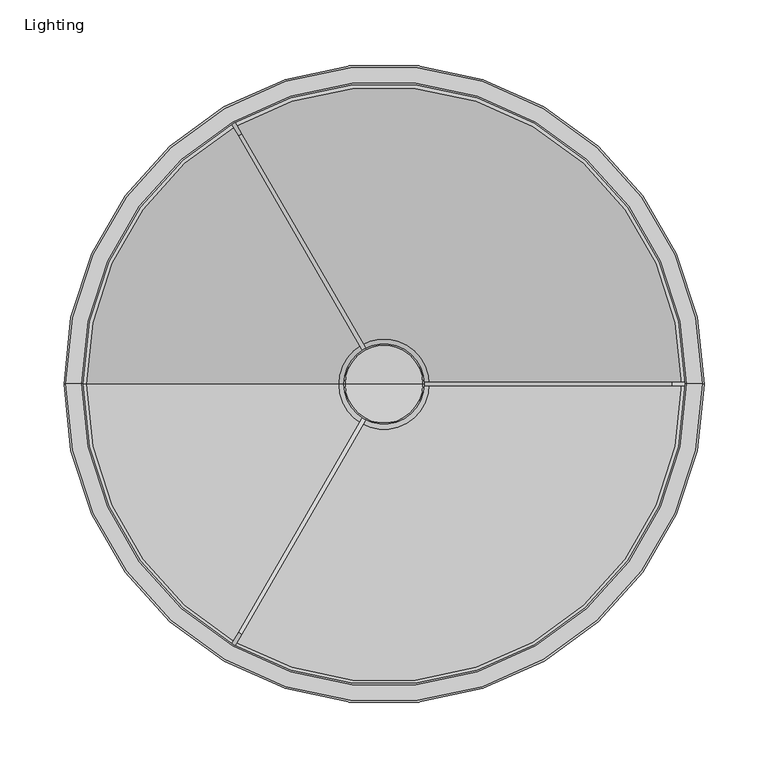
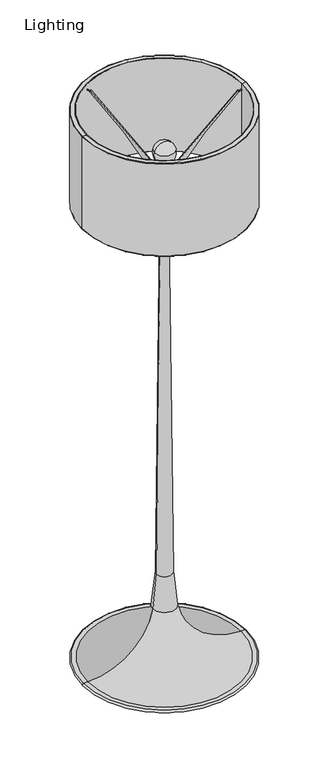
"""IFC4 building model written with IfcOpenShell, lengths in millimetres: furniture geometry, Flos - Spun Light F : Lighting."""

from ifc_helpers import new_model, si_unit, point, frame, frame_2d, origin, place, context, project, spatial, polyline, circle_curve, ellipse_curve, trimmed, segment, composite_curve, outline, extrude, source, transform, mapped, element, save
from ifc_brep_helpers import plane_surface, cylinder_surface, revolved_surface, advanced_brep


def lighting_98346d79(model_context):
    return source(origin(), model_context, "Body", "SolidModel", [
        extrude(outline(composite_curve([segment(trimmed(circle_curve(frame_2d((0.0, -1.5)), 1.5), [point((0.0, -3.0))], [point((0.0, 0.0))], False, "CARTESIAN"), True, "CONTINUOUS"), segment(trimmed(circle_curve(frame_2d((0.0, -1.5)), 1.5), [point((0.0, 0.0))], [point((0.0, -3.0))], False, "CARTESIAN"), True, "CONTINUOUS")], self_intersect=False)), frame((-480.7255228, 141.6531573, 1746.4644735), z_axis=(0.5000000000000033, 0.8660254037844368, 0.0), x_axis=(0.0, 0.0, -1.0)), (0.0, 0.0, 1.0), 11.9225152),
        extrude(outline(composite_curve([segment(polyline([(2125.9417669, -1025.4635576), (2119.9466991, -1025.4635576)]), True, "CONTINUOUS"), segment(trimmed(circle_curve(frame_2d((949.9712899, -1990.7022794)), 1516.7492371), [point((2119.9466991, -1025.4635576))], [point((2028.4604144, -924.2176538))], True, "CARTESIAN"), True, "CONTINUOUS"), segment(trimmed(circle_curve(frame_2d((1620.7177075, -1327.4218385)), 573.4350265), [point((2028.4604144, -924.2176538))], [point((1895.9133242, -824.3362572))], True, "CARTESIAN"), True, "CONTINUOUS"), segment(polyline([(1895.9133242, -824.3362572), (1949.0963027, -824.3362572)]), True, "CONTINUOUS"), segment(trimmed(circle_curve(frame_2d((0.0, -2716.4319311)), 2716.4319311), [point((1949.0963027, -824.3362572))], [point((2125.9417669, -1025.4635576))], False, "CARTESIAN"), True, "CONTINUOUS")], self_intersect=False)), frame((40.5655898, 1038.5558498, -376.4772934), z_axis=(-0.8660254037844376, 0.5000000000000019, 0.0), x_axis=(0.0, 0.0, 1.0)), (0.0, 0.0, 1.0), 3.0),
        extrude(outline(composite_curve([segment(trimmed(circle_curve(frame_2d((0.0, -1.5)), 1.5), [point((0.0, -3.0))], [point((0.0, 0.0))], False, "CARTESIAN"), True, "CONTINUOUS"), segment(trimmed(circle_curve(frame_2d((0.0, -1.5)), 1.5), [point((0.0, 0.0))], [point((0.0, -3.0))], False, "CARTESIAN"), True, "CONTINUOUS")], self_intersect=False)), frame((-474.7642652, 539.6054614, 1746.4644735), z_axis=(-0.49999999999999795, 0.8660254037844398, 0.0), x_axis=(0.0, 0.0, -1.0)), (0.0, 0.0, 1.0), 11.9225152),
        extrude(outline(composite_curve([segment(polyline([(0.0, 0.0), (5.9950678, 0.0)]), True, "CONTINUOUS"), segment(trimmed(circle_curve(frame_2d((1175.970477, 965.2387218)), 1516.7492371), [point((5.9950678, 0.0))], [point((97.4813525, -101.2459038))], True, "CARTESIAN"), True, "CONTINUOUS"), segment(trimmed(circle_curve(frame_2d((505.2240594, 301.9582809)), 573.4350265), [point((97.4813525, -101.2459038))], [point((230.0284427, -201.1273005))], True, "CARTESIAN"), True, "CONTINUOUS"), segment(polyline([(230.0284427, -201.1273005), (176.8454642, -201.1273005)]), True, "CONTINUOUS"), segment(trimmed(circle_curve(frame_2d((2125.9417669, 1690.9683736)), 2716.4319311), [point((176.8454642, -201.1273005))], [point((0.0, 0.0))], False, "CARTESIAN"), True, "CONTINUOUS")], self_intersect=False)), frame((-474.7642652, 539.6054614, 1749.4644735), z_axis=(0.8660254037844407, 0.49999999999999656, 0.0), x_axis=(0.0, 0.0, -1.0)), (0.0, 0.0, 1.0), 3.0),
        extrude(outline(composite_curve([segment(trimmed(circle_curve(frame_2d((345.7919098, 1746.4644735)), 1.5), [point((344.2919098, 1746.4644735))], [point((347.2919098, 1746.4644735))], False, "CARTESIAN"), True, "CONTINUOUS"), segment(trimmed(circle_curve(frame_2d((345.7919098, 1746.4644735)), 1.5), [point((347.2919098, 1746.4644735))], [point((344.2919098, 1746.4644735))], False, "CARTESIAN"), True, "CONTINUOUS")], self_intersect=False)), frame((-136.4712706, 0.0, 0.0), z_axis=(1.0, 0.0, 0.0), x_axis=(0.0, 1.0, 0.0)), (0.0, 0.0, 1.0), 11.9225152),
        extrude(outline(composite_curve([segment(trimmed(circle_curve(frame_2d((-376.4772934, 1554.497103)), 2716.4319311), [point((1749.4644735, -136.4712706))], [point((1572.6190093, -337.598571))], False, "CARTESIAN"), True, "CONTINUOUS"), segment(polyline([(1572.6190093, -337.598571), (1519.4360308, -337.598571)]), True, "CONTINUOUS"), segment(trimmed(circle_curve(frame_2d((1244.2404141, 165.4870104)), 573.4350265), [point((1519.4360308, -337.598571))], [point((1651.983121, -237.7171743))], True, "CARTESIAN"), True, "CONTINUOUS"), segment(trimmed(circle_curve(frame_2d((573.4939965, 828.7674513)), 1516.7492371), [point((1651.983121, -237.7171743))], [point((1743.4694057, -136.4712706))], True, "CARTESIAN"), True, "CONTINUOUS"), segment(polyline([(1743.4694057, -136.4712706), (1749.4644735, -136.4712706)]), True, "CONTINUOUS")], self_intersect=False)), frame((0.0, 344.2919098, 0.0), z_axis=(0.0, 1.0, 0.0), x_axis=(0.0, 0.0, 1.0)), (0.0, 0.0, 1.0), 3.0),
        advanced_brep(
        [(-596.3839083, 345.7919098, 1468.0), (-125.8839083, 345.7919098, 1468.0), (-124.8839083, 345.7919098, 1468.0), (-597.3839083, 345.7919098, 1468.0), (-596.3839083, 345.7919098, 1766.0), (-125.8839083, 345.7919098, 1766.0), (-597.3839083, 345.7919098, 1766.0), (-124.8839083, 345.7919098, 1766.0)],
        [
            (0, 1, circle_curve(frame((-361.1339083, 345.7919098, 1468.0), z_axis=(0.0, 0.0, 1.0), x_axis=(1.0, 0.0, 0.0)), 235.25)),
            (1, 2),
            (2, 3, circle_curve(frame((-361.1339083, 345.7919098, 1468.0), z_axis=(0.0, 0.0, -1.0), x_axis=(1.0, 0.0, 0.0)), 236.25)),
            (3, 0),
            (1, 0, circle_curve(frame((-361.1339083, 345.7919098, 1468.0), z_axis=(0.0, 0.0, 1.0), x_axis=(1.0, 0.0, 0.0)), 235.25)),
            (3, 2, circle_curve(frame((-361.1339083, 345.7919098, 1468.0), z_axis=(0.0, 0.0, -1.0), x_axis=(1.0, 0.0, 0.0)), 236.25)),
            (4, 5, circle_curve(frame((-361.1339083, 345.7919098, 1766.0), z_axis=(0.0, 0.0, 1.0), x_axis=(1.0, 0.0, 0.0)), 235.25)),
            (5, 1),
            (0, 4),
            (5, 4, circle_curve(frame((-361.1339083, 345.7919098, 1766.0), z_axis=(0.0, 0.0, 1.0), x_axis=(1.0, 0.0, 0.0)), 235.25)),
            (6, 7, circle_curve(frame((-361.1339083, 345.7919098, 1766.0), z_axis=(0.0, 0.0, 1.0), x_axis=(1.0, 0.0, 0.0)), 236.25)),
            (7, 5),
            (4, 6),
            (7, 6, circle_curve(frame((-361.1339083, 345.7919098, 1766.0), z_axis=(0.0, 0.0, 1.0), x_axis=(1.0, 0.0, 0.0)), 236.25)),
            (2, 7),
            (6, 3),
        ],
        [
            plane_surface(frame((-361.1339083, 345.7919098, 1468.0), z_axis=(0.0, 0.0, -1.0), x_axis=(1.0, 0.0, 0.0))),
            revolved_surface(polyline([(-125.88390829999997, 345.7919098, 1468.0), (-125.88390829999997, 345.7919098, 1766.0)]), (-361.1339083, 345.7919098, 1906.0), (0.0, 0.0, -1.0)),
            plane_surface(frame((-361.1339083, 345.7919098, 1766.0), z_axis=(0.0, 0.0, 1.0), x_axis=(1.0, 0.0, 0.0))),
            cylinder_surface(frame((-361.1339083, 345.7919098, 1906.0), z_axis=(0.0, 0.0, -1.0), x_axis=(1.0, 0.0, 0.0)), 236.25),
        ],
        [
            (0, [[1, 2, 3, 4]]),
            (0, [[5, -4, 6, -2]]),
            (1, [[7, 8, -1, 9]]),
            (1, [[10, -9, -5, -8]]),
            (2, [[11, 12, -7, 13]]),
            (2, [[14, -13, -10, -12]]),
            (3, [[-3, 15, -11, 16]]),
            (3, [[-6, -16, -14, -15]]),
        ],
    ),
        advanced_brep(
        [(-361.1339083, 345.7919098, 0.0), (-115.5191649, 345.7919098, 0.0), (-606.7486516, 345.7919098, 0.0), (-372.2519888, 345.7919098, 1496.7906991), (-350.0158277, 345.7919098, 1496.7906991), (-361.1339083, 345.7919098, 1496.7906991), (-385.2169931, 345.7919098, 281.3512826), (-337.0508235, 345.7919098, 281.3512826), (-396.4131076, 345.7919098, 173.8393367), (-325.8547089, 345.7919098, 173.8393367), (-593.5282358, 345.7919098, 7.6864375), (-128.7395807, 345.7919098, 7.6864375), (-606.7486516, 345.7919098, 7.6864375), (-115.5191649, 345.7919098, 7.6864375)],
        [
            (0, 1),
            (1, 2, circle_curve(frame((-361.1339083, 345.7919098, 0.0), z_axis=(0.0, 0.0, -1.0), x_axis=(1.0, 0.0, 0.0)), 245.6147434)),
            (2, 0),
            (2, 1, circle_curve(frame((-361.1339083, 345.7919098, 0.0), z_axis=(0.0, 0.0, -1.0), x_axis=(1.0, 0.0, 0.0)), 245.6147434)),
            (3, 4, circle_curve(frame((-361.1339083, 345.7919098, 1496.7906991), z_axis=(0.0, 0.0, 1.0), x_axis=(1.0, 0.0, 0.0)), 11.1180805)),
            (4, 5),
            (5, 3),
            (4, 3, circle_curve(frame((-361.1339083, 345.7919098, 1496.7906991), z_axis=(0.0, 0.0, 1.0), x_axis=(1.0, 0.0, 0.0)), 11.1180805)),
            (6, 7, circle_curve(frame((-361.1339083, 345.7919098, 281.3512826), z_axis=(0.0, 0.0, 1.0), x_axis=(1.0, 0.0, 0.0)), 24.0830848)),
            (7, 4, circle_curve(frame((22320.2412413, 345.7919098, 1130.8238332), z_axis=(0.0, 1.0, 0.0), x_axis=(-1.0, 0.0, 0.0)), 22673.2107855)),
            (3, 6, circle_curve(frame((-23042.5090579, 345.7919098, 1130.8238332), z_axis=(0.0, 1.0, 0.0), x_axis=(1.0, 0.0, 0.0)), 22673.2107855)),
            (7, 6, circle_curve(frame((-361.1339083, 345.7919098, 281.3512826), z_axis=(0.0, 0.0, 1.0), x_axis=(1.0, 0.0, 0.0)), 24.0830848)),
            (8, 9, circle_curve(frame((-361.1339083, 345.7919098, 173.8393367), z_axis=(0.0, 0.0, 1.0), x_axis=(1.0, 0.0, 0.0)), 35.2791993)),
            (9, 7, circle_curve(frame((478.2849605, 345.7919098, 311.9200446), z_axis=(0.0, 1.0, 0.0), x_axis=(-1.0, 0.0, 0.0)), 815.9086284)),
            (6, 8, circle_curve(frame((-1200.552777, 345.7919098, 311.9200446), z_axis=(0.0, 1.0, 0.0), x_axis=(1.0, 0.0, 0.0)), 815.9086284)),
            (9, 8, circle_curve(frame((-361.1339083, 345.7919098, 173.8393367), z_axis=(0.0, 0.0, 1.0), x_axis=(1.0, 0.0, 0.0)), 35.2791993)),
            (10, 11, circle_curve(frame((-361.1339083, 345.7919098, 7.6864375), z_axis=(0.0, 0.0, 1.0), x_axis=(1.0, 0.0, 0.0)), 232.3943275)),
            (11, 9, circle_curve(frame((-128.7395807, 345.7919098, 207.6864375), z_axis=(0.0, 1.0, 0.0), x_axis=(-1.0, 0.0, 0.0)), 200.0)),
            (8, 10, circle_curve(frame((-593.5282358, 345.7919098, 207.6864375), z_axis=(0.0, 1.0, 0.0), x_axis=(1.0, 0.0, 0.0)), 200.0)),
            (11, 10, circle_curve(frame((-361.1339083, 345.7919098, 7.6864375), z_axis=(0.0, 0.0, 1.0), x_axis=(1.0, 0.0, 0.0)), 232.3943275)),
            (12, 13, circle_curve(frame((-361.1339083, 345.7919098, 7.6864375), z_axis=(0.0, 0.0, 1.0), x_axis=(1.0, 0.0, 0.0)), 245.6147434)),
            (13, 11),
            (10, 12),
            (13, 12, circle_curve(frame((-361.1339083, 345.7919098, 7.6864375), z_axis=(0.0, 0.0, 1.0), x_axis=(1.0, 0.0, 0.0)), 245.6147434)),
            (1, 13, circle_curve(frame((-115.5191649, 345.7919098, 3.8432188), z_axis=(0.0, -1.0, 0.0), x_axis=(-1.0, 0.0, 0.0)), 3.8432188)),
            (12, 2, circle_curve(frame((-606.7486516, 345.7919098, 3.8432188), z_axis=(0.0, -1.0, 0.0), x_axis=(1.0, 0.0, 0.0)), 3.8432188)),
        ],
        [
            plane_surface(frame((-361.1339083, 345.7919098, 0.0), z_axis=(0.0, 0.0, -1.0), x_axis=(1.0, 0.0, 0.0))),
            plane_surface(frame((-361.1339083, 345.7919098, 1496.7906991), z_axis=(0.0, 0.0, 1.0), x_axis=(1.0, 0.0, 0.0))),
            revolved_surface(trimmed(ellipse_curve(frame((22320.2412413, 345.7919098, 1130.8238332), z_axis=(0.0, -1.0, 0.0), x_axis=(-1.0, 0.0, 0.0)), 22673.2107855, 22673.2107855), [point((-350.0158277, 345.7919098, 1496.7906991))], [point((-337.0508235, 345.7919098, 281.3512826))], True, "CARTESIAN"), (-361.1339083, 345.7919098, 1408.2368008), (0.0, 0.0, -1.0)),
            revolved_surface(trimmed(ellipse_curve(frame((478.2849605, 345.7919098, 311.9200446), z_axis=(0.0, -1.0, 0.0), x_axis=(-1.0, 0.0, 0.0)), 815.9086284, 815.9086284), [point((-337.0508235, 345.7919098, 281.3512826))], [point((-325.8547089, 345.7919098, 173.8393367))], True, "CARTESIAN"), (-361.1339083, 345.7919098, 1408.2368008), (0.0, 0.0, -1.0)),
            revolved_surface(trimmed(ellipse_curve(frame((-128.7395807, 345.7919098, 207.6864375), z_axis=(0.0, -1.0, 0.0), x_axis=(-1.0, 0.0, 0.0)), 200.0, 200.0), [point((-325.8547089, 345.7919098, 173.8393367))], [point((-128.7395807, 345.7919098, 7.6864375))], True, "CARTESIAN"), (-361.1339083, 345.7919098, 1408.2368008), (0.0, 0.0, -1.0)),
            plane_surface(frame((-361.1339083, 345.7919098, 7.6864375), z_axis=(0.0, 0.0, 1.0), x_axis=(1.0, 0.0, 0.0))),
            revolved_surface(trimmed(ellipse_curve(frame((-115.5191649, 345.7919098, 3.8432188), z_axis=(0.0, 1.0, 0.0), x_axis=(-1.0, 0.0, 0.0)), 3.8432188, 3.8432188), [point((-115.5191649, 345.7919098, 7.6864375))], [point((-115.5191649, 345.7919098, 0.0))], True, "CARTESIAN"), (-361.1339083, 345.7919098, 1408.2368008), (0.0, 0.0, -1.0)),
        ],
        [
            (0, [[1, 2, 3]]),
            (0, [[-3, 4, -1]]),
            (1, [[5, 6, 7]]),
            (1, [[8, -7, -6]]),
            (2, [[9, 10, -5, 11]]),
            (2, [[12, -11, -8, -10]]),
            (3, [[13, 14, -9, 15]]),
            (3, [[16, -15, -12, -14]]),
            (4, [[17, 18, -13, 19]]),
            (4, [[20, -19, -16, -18]]),
            (5, [[21, 22, -17, 23]]),
            (5, [[24, -23, -20, -22]]),
            (6, [[-2, 25, -21, 26]]),
            (6, [[-4, -26, -24, -25]]),
        ],
    ),
        advanced_brep(
        [(-376.8534763, 345.7919098, 1575.3222579), (-345.4143402, 345.7919098, 1575.3222579), (-344.324078, 345.7919098, 1597.7140995), (-377.9437386, 345.7919098, 1597.7140995), (-361.1339083, 345.7919098, 1568.984467), (-361.1339083, 345.7919098, 1597.7140995)],
        [
            (0, 1, circle_curve(frame((-361.1339083, 345.7919098, 1575.3222579), z_axis=(0.0, 0.0, 1.0), x_axis=(1.0, 0.0, 0.0)), 15.719568)),
            (1, 2),
            (2, 3, circle_curve(frame((-361.1339083, 345.7919098, 1597.7140995), z_axis=(0.0, 0.0, -1.0), x_axis=(1.0, 0.0, 0.0)), 16.8098303)),
            (3, 0),
            (1, 0, circle_curve(frame((-361.1339083, 345.7919098, 1575.3222579), z_axis=(0.0, 0.0, 1.0), x_axis=(1.0, 0.0, 0.0)), 15.719568)),
            (3, 2, circle_curve(frame((-361.1339083, 345.7919098, 1597.7140995), z_axis=(0.0, 0.0, -1.0), x_axis=(1.0, 0.0, 0.0)), 16.8098303)),
            (4, 1, circle_curve(frame((-361.1339095, 345.7919098, 1591.6479199), z_axis=(0.0, -1.0, 0.0), x_axis=(-1.0, 0.0, 0.0)), 22.6634529)),
            (0, 4, circle_curve(frame((-361.133907, 345.7919098, 1591.6479199), z_axis=(0.0, -1.0, 0.0), x_axis=(1.0, 0.0, 0.0)), 22.6634529)),
            (2, 5),
            (5, 3),
        ],
        [
            revolved_surface(polyline([(-344.324078, 345.7919098, 1597.7140995), (-345.4143402, 345.7919098, 1575.3222579)]), (-361.1339083, 345.7919098, 1591.5383358), (0.0, 0.0, -1.0)),
            revolved_surface(trimmed(ellipse_curve(frame((-361.1339095, 345.7919098, 1591.6479199), z_axis=(0.0, 1.0, 0.0), x_axis=(-1.0, 0.0, 0.0)), 22.6634529, 22.6634529), [point((-345.4143402, 345.7919098, 1575.3222579))], [point((-361.1339083, 345.7919098, 1568.984467))], True, "CARTESIAN"), (-361.1339083, 345.7919098, 1591.5383358), (0.0, 0.0, -1.0)),
            plane_surface(frame((-361.1339083, 345.7919098, 1597.7140995), z_axis=(0.0, 0.0, 1.0), x_axis=(1.0, 0.0, 0.0))),
        ],
        [
            (0, [[1, 2, 3, 4]]),
            (0, [[5, -4, 6, -2]]),
            (1, [[7, -1, 8]]),
            (1, [[-8, -5, -7]]),
            (2, [[-3, 9, 10]]),
            (2, [[-6, -10, -9]]),
        ],
    ),
        advanced_brep(
        [(-377.9437386, 345.7919098, 1597.7140995), (-344.324078, 345.7919098, 1597.7140995), (-330.7271802, 345.7919098, 1636.8241251), (-391.5406364, 345.7919098, 1636.8241251), (-361.1339083, 345.7919098, 1597.7140995), (-361.1339083, 345.7919098, 1661.3737004)],
        [
            (0, 1, circle_curve(frame((-361.1339083, 345.7919098, 1597.7140995), z_axis=(0.0, 0.0, 1.0), x_axis=(1.0, 0.0, 0.0)), 16.8098303)),
            (1, 2, circle_curve(frame((-369.6406673, 345.7919098, 1628.4341496), z_axis=(0.0, -1.0, 0.0), x_axis=(-1.0, 0.0, 0.0)), 39.8076773)),
            (2, 3, circle_curve(frame((-361.1339083, 345.7919098, 1636.8241251), z_axis=(0.0, 0.0, -1.0), x_axis=(1.0, 0.0, 0.0)), 30.4067281)),
            (3, 0, circle_curve(frame((-352.6271493, 345.7919098, 1628.4341496), z_axis=(0.0, -1.0, 0.0), x_axis=(1.0, 0.0, 0.0)), 39.8076773)),
            (1, 0, circle_curve(frame((-361.1339083, 345.7919098, 1597.7140995), z_axis=(0.0, 0.0, 1.0), x_axis=(1.0, 0.0, 0.0)), 16.8098303)),
            (3, 2, circle_curve(frame((-361.1339083, 345.7919098, 1636.8241251), z_axis=(0.0, 0.0, -1.0), x_axis=(1.0, 0.0, 0.0)), 30.4067281)),
            (4, 1),
            (0, 4),
            (2, 5, circle_curve(frame((-361.1339104, 345.7919098, 1630.2682562), z_axis=(0.0, -1.0, 0.0), x_axis=(-1.0, 0.0, 0.0)), 31.1054442)),
            (5, 3, circle_curve(frame((-361.1339062, 345.7919098, 1630.2682562), z_axis=(0.0, -1.0, 0.0), x_axis=(1.0, 0.0, 0.0)), 31.1054442)),
        ],
        [
            revolved_surface(trimmed(ellipse_curve(frame((-369.6406673, 345.7919098, 1628.4341496), z_axis=(0.0, 1.0, 0.0), x_axis=(-1.0, 0.0, 0.0)), 39.8076773, 39.8076773), [point((-330.7271802, 345.7919098, 1636.8241251))], [point((-344.324078, 345.7919098, 1597.7140995))], True, "CARTESIAN"), (-361.1339083, 345.7919098, 1508.984467), (0.0, 0.0, -1.0)),
            plane_surface(frame((-361.1339083, 345.7919098, 1597.7140995), z_axis=(0.0, 0.0, -1.0), x_axis=(1.0, 0.0, 0.0))),
            revolved_surface(trimmed(ellipse_curve(frame((-361.1339104, 345.7919098, 1630.2682562), z_axis=(0.0, 1.0, 0.0), x_axis=(-1.0, 0.0, 0.0)), 31.1054442, 31.1054442), [point((-361.1339083, 345.7919098, 1661.3737004))], [point((-330.7271802, 345.7919098, 1636.8241251))], True, "CARTESIAN"), (-361.1339083, 345.7919098, 1508.984467), (0.0, 0.0, -1.0)),
        ],
        [
            (0, [[1, 2, 3, 4]]),
            (0, [[5, -4, 6, -2]]),
            (1, [[7, -1, 8]]),
            (1, [[-8, -5, -7]]),
            (2, [[-3, 9, 10]]),
            (2, [[-6, -10, -9]]),
        ],
    ),
        advanced_brep(
        [(-361.1339083, 345.7919098, 1496.7906991), (-352.5421569, 345.7919098, 1496.7906991), (-369.7256597, 345.7919098, 1496.7906991), (-379.0933861, 345.7919098, 1522.5485234), (-343.1744304, 345.7919098, 1522.5485234), (-361.1339083, 345.7919098, 1522.5485234), (-381.1784935, 345.7919098, 1572.6190093), (-341.089323, 345.7919098, 1572.6190093), (-384.6692456, 345.7919098, 1572.6190093), (-337.598571, 345.7919098, 1572.6190093), (-384.6692456, 345.7919098, 1518.426376), (-337.598571, 345.7919098, 1518.426376), (-371.8332554, 345.7919098, 1502.2363771), (-350.4345612, 345.7919098, 1502.2363771)],
        [
            (0, 1),
            (1, 2, circle_curve(frame((-361.1339083, 345.7919098, 1496.7906991), z_axis=(0.0, 0.0, -1.0), x_axis=(1.0, 0.0, 0.0)), 8.5917514)),
            (2, 0),
            (2, 1, circle_curve(frame((-361.1339083, 345.7919098, 1496.7906991), z_axis=(0.0, 0.0, -1.0), x_axis=(1.0, 0.0, 0.0)), 8.5917514)),
            (3, 4, circle_curve(frame((-361.1339083, 345.7919098, 1522.5485234), z_axis=(0.0, 0.0, 1.0), x_axis=(1.0, 0.0, 0.0)), 17.9594778)),
            (4, 5),
            (5, 3),
            (4, 3, circle_curve(frame((-361.1339083, 345.7919098, 1522.5485234), z_axis=(0.0, 0.0, 1.0), x_axis=(1.0, 0.0, 0.0)), 17.9594778)),
            (6, 7, circle_curve(frame((-361.1339083, 345.7919098, 1572.6190093), z_axis=(0.0, 0.0, 1.0), x_axis=(1.0, 0.0, 0.0)), 20.0445852)),
            (7, 4),
            (3, 6),
            (7, 6, circle_curve(frame((-361.1339083, 345.7919098, 1572.6190093), z_axis=(0.0, 0.0, 1.0), x_axis=(1.0, 0.0, 0.0)), 20.0445852)),
            (8, 9, circle_curve(frame((-361.1339083, 345.7919098, 1572.6190093), z_axis=(0.0, 0.0, 1.0), x_axis=(1.0, 0.0, 0.0)), 23.5353373)),
            (9, 7),
            (6, 8),
            (9, 8, circle_curve(frame((-361.1339083, 345.7919098, 1572.6190093), z_axis=(0.0, 0.0, 1.0), x_axis=(1.0, 0.0, 0.0)), 23.5353373)),
            (10, 11, circle_curve(frame((-361.1339083, 345.7919098, 1518.426376), z_axis=(0.0, 0.0, 1.0), x_axis=(1.0, 0.0, 0.0)), 23.5353373)),
            (11, 9),
            (8, 10),
            (11, 10, circle_curve(frame((-361.1339083, 345.7919098, 1518.426376), z_axis=(0.0, 0.0, 1.0), x_axis=(1.0, 0.0, 0.0)), 23.5353373)),
            (12, 13, circle_curve(frame((-361.1339083, 345.7919098, 1502.2363771), z_axis=(0.0, 0.0, 1.0), x_axis=(1.0, 0.0, 0.0)), 10.6993471)),
            (13, 11),
            (10, 12),
            (13, 12, circle_curve(frame((-361.1339083, 345.7919098, 1502.2363771), z_axis=(0.0, 0.0, 1.0), x_axis=(1.0, 0.0, 0.0)), 10.6993471)),
            (1, 13, circle_curve(frame((-342.7199657, 345.7919098, 1496.1199794), z_axis=(0.0, 1.0, 0.0), x_axis=(-1.0, 0.0, 0.0)), 9.8450649)),
            (12, 2, circle_curve(frame((-379.5478508, 345.7919098, 1496.1199794), z_axis=(0.0, 1.0, 0.0), x_axis=(1.0, 0.0, 0.0)), 9.8450649)),
        ],
        [
            plane_surface(frame((-361.1339083, 345.7919098, 1496.7906991), z_axis=(0.0, 0.0, -1.0), x_axis=(1.0, 0.0, 0.0))),
            plane_surface(frame((-361.1339083, 345.7919098, 1522.5485234), z_axis=(0.0, 0.0, 1.0), x_axis=(1.0, 0.0, 0.0))),
            revolved_surface(polyline([(-343.1744304, 345.7919098, 1522.5485234), (-341.089323, 345.7919098, 1572.6190093)]), (-361.1339083, 345.7919098, 1273.426376), (0.0, 0.0, -1.0)),
            plane_surface(frame((-361.1339083, 345.7919098, 1572.6190093), z_axis=(0.0, 0.0, 1.0), x_axis=(1.0, 0.0, 0.0))),
            cylinder_surface(frame((-361.1339083, 345.7919098, 1273.426376), z_axis=(0.0, 0.0, -1.0), x_axis=(1.0, 0.0, 0.0)), 23.5353373),
            revolved_surface(polyline([(-337.598571, 345.7919098, 1518.426376), (-350.4345612, 345.7919098, 1502.2363771)]), (-361.1339083, 345.7919098, 1273.426376), (0.0, 0.0, -1.0)),
            revolved_surface(trimmed(ellipse_curve(frame((-342.7199657, 345.7919098, 1496.1199794), z_axis=(0.0, -1.0, 0.0), x_axis=(-1.0, 0.0, 0.0)), 9.8450649, 9.8450649), [point((-350.4345612, 345.7919098, 1502.2363771))], [point((-352.5421569, 345.7919098, 1496.7906991))], True, "CARTESIAN"), (-361.1339083, 345.7919098, 1273.426376), (0.0, 0.0, -1.0)),
        ],
        [
            (0, [[1, 2, 3]]),
            (0, [[-3, 4, -1]]),
            (1, [[5, 6, 7]]),
            (1, [[8, -7, -6]]),
            (2, [[9, 10, -5, 11]]),
            (2, [[12, -11, -8, -10]]),
            (3, [[13, 14, -9, 15]]),
            (3, [[16, -15, -12, -14]]),
            (4, [[17, 18, -13, 19]]),
            (4, [[20, -19, -16, -18]]),
            (5, [[21, 22, -17, 23]]),
            (5, [[24, -23, -20, -22]]),
            (6, [[-2, 25, -21, 26]]),
            (6, [[-4, -26, -24, -25]]),
        ],
    ),
        advanced_brep(
        [(-597.3839083, 345.7919098, 1468.0), (-124.8839083, 345.7919098, 1468.0), (-112.6339083, 345.7919098, 1468.0), (-609.6339083, 345.7919098, 1468.0), (-597.3839083, 345.7919098, 1766.0), (-124.8839083, 345.7919098, 1766.0), (-609.6339083, 345.7919098, 1766.0), (-112.6339083, 345.7919098, 1766.0), (-611.1339083, 345.7919098, 1469.5), (-111.1339083, 345.7919098, 1469.5), (-111.1339083, 345.7919098, 1764.5), (-611.1339083, 345.7919098, 1764.5)],
        [
            (0, 1, circle_curve(frame((-361.1339083, 345.7919098, 1468.0), z_axis=(0.0, 0.0, 1.0), x_axis=(1.0, 0.0, 0.0)), 236.25)),
            (1, 2),
            (2, 3, circle_curve(frame((-361.1339083, 345.7919098, 1468.0), z_axis=(0.0, 0.0, -1.0), x_axis=(1.0, 0.0, 0.0)), 248.5)),
            (3, 0),
            (1, 0, circle_curve(frame((-361.1339083, 345.7919098, 1468.0), z_axis=(0.0, 0.0, 1.0), x_axis=(1.0, 0.0, 0.0)), 236.25)),
            (3, 2, circle_curve(frame((-361.1339083, 345.7919098, 1468.0), z_axis=(0.0, 0.0, -1.0), x_axis=(1.0, 0.0, 0.0)), 248.5)),
            (4, 5, circle_curve(frame((-361.1339083, 345.7919098, 1766.0), z_axis=(0.0, 0.0, 1.0), x_axis=(1.0, 0.0, 0.0)), 236.25)),
            (5, 1),
            (0, 4),
            (5, 4, circle_curve(frame((-361.1339083, 345.7919098, 1766.0), z_axis=(0.0, 0.0, 1.0), x_axis=(1.0, 0.0, 0.0)), 236.25)),
            (6, 7, circle_curve(frame((-361.1339083, 345.7919098, 1766.0), z_axis=(0.0, 0.0, 1.0), x_axis=(1.0, 0.0, 0.0)), 248.5)),
            (7, 5),
            (4, 6),
            (7, 6, circle_curve(frame((-361.1339083, 345.7919098, 1766.0), z_axis=(0.0, 0.0, 1.0), x_axis=(1.0, 0.0, 0.0)), 248.5)),
            (8, 9, circle_curve(frame((-361.1339083, 345.7919098, 1469.5), z_axis=(0.0, 0.0, 1.0), x_axis=(1.0, 0.0, 0.0)), 250.0)),
            (9, 10),
            (10, 11, circle_curve(frame((-361.1339083, 345.7919098, 1764.5), z_axis=(0.0, 0.0, -1.0), x_axis=(1.0, 0.0, 0.0)), 250.0)),
            (11, 8),
            (9, 8, circle_curve(frame((-361.1339083, 345.7919098, 1469.5), z_axis=(0.0, 0.0, 1.0), x_axis=(1.0, 0.0, 0.0)), 250.0)),
            (11, 10, circle_curve(frame((-361.1339083, 345.7919098, 1764.5), z_axis=(0.0, 0.0, -1.0), x_axis=(1.0, 0.0, 0.0)), 250.0)),
            (2, 9, circle_curve(frame((-112.6339083, 345.7919098, 1469.5), z_axis=(0.0, -1.0, 0.0), x_axis=(-1.0, 0.0, 0.0)), 1.5)),
            (8, 3, circle_curve(frame((-609.6339083, 345.7919098, 1469.5), z_axis=(0.0, -1.0, 0.0), x_axis=(1.0, 0.0, 0.0)), 1.5)),
            (10, 7, circle_curve(frame((-112.6339083, 345.7919098, 1764.5), z_axis=(0.0, -1.0, 0.0), x_axis=(-1.0, 0.0, 0.0)), 1.5)),
            (6, 11, circle_curve(frame((-609.6339083, 345.7919098, 1764.5), z_axis=(0.0, -1.0, 0.0), x_axis=(1.0, 0.0, 0.0)), 1.5)),
        ],
        [
            plane_surface(frame((-361.1339083, 345.7919098, 1468.0), z_axis=(0.0, 0.0, -1.0), x_axis=(1.0, 0.0, 0.0))),
            revolved_surface(polyline([(-124.88390829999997, 345.7919098, 1468.0), (-124.88390829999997, 345.7919098, 1766.0)]), (-361.1339083, 345.7919098, 1891.0), (0.0, 0.0, -1.0)),
            plane_surface(frame((-361.1339083, 345.7919098, 1766.0), z_axis=(0.0, 0.0, 1.0), x_axis=(1.0, 0.0, 0.0))),
            cylinder_surface(frame((-361.1339083, 345.7919098, 1891.0), z_axis=(0.0, 0.0, -1.0), x_axis=(1.0, 0.0, 0.0)), 250.0),
            revolved_surface(trimmed(ellipse_curve(frame((-112.6339083, 345.7919098, 1469.5), z_axis=(0.0, 1.0, 0.0), x_axis=(-1.0, 0.0, 0.0)), 1.5, 1.5), [point((-111.1339083, 345.7919098, 1469.5))], [point((-112.6339083, 345.7919098, 1468.0))], True, "CARTESIAN"), (-361.1339083, 345.7919098, 1891.0), (0.0, 0.0, -1.0)),
            revolved_surface(trimmed(ellipse_curve(frame((-112.6339083, 345.7919098, 1764.5), z_axis=(0.0, 1.0, 0.0), x_axis=(-1.0, 0.0, 0.0)), 1.5, 1.5), [point((-112.6339083, 345.7919098, 1766.0))], [point((-111.1339083, 345.7919098, 1764.5))], True, "CARTESIAN"), (-361.1339083, 345.7919098, 1891.0), (0.0, 0.0, -1.0)),
        ],
        [
            (0, [[1, 2, 3, 4]]),
            (0, [[5, -4, 6, -2]]),
            (1, [[7, 8, -1, 9]]),
            (1, [[10, -9, -5, -8]]),
            (2, [[11, 12, -7, 13]]),
            (2, [[14, -13, -10, -12]]),
            (3, [[15, 16, 17, 18]]),
            (3, [[19, -18, 20, -16]]),
            (4, [[-3, 21, -15, 22]]),
            (4, [[-6, -22, -19, -21]]),
            (5, [[-17, 23, -11, 24]]),
            (5, [[-20, -24, -14, -23]]),
        ],
    ),
    ])


if __name__ == "__main__":
    model = new_model("IFC4")
    model_context = context("Model", 3, world=origin())
    ifc_project = project(units=[si_unit("LENGTHUNIT", "METRE", prefix="MILLI")], contexts=[model_context])
    site = spatial("IfcSite", under=ifc_project)
    building = spatial("IfcBuilding", under=site)
    placement = place(None, origin())
    lighting_shape = lighting_98346d79(model_context)
    element("IfcFurniture", 1, ObjectType="Flos - Spun Light F : Lighting", at=placement, inside=building, context=model_context, shape_type="MappedRepresentation", body=[
        mapped(lighting_shape, transform((0.0, 0.0, 0.0), x_axis=(1.0, 0.0, 0.0), y_axis=(0.0, 1.0, 0.0), z_axis=(0.0, 0.0, 1.0))),
    ])
    save(model, "model.ifc")
